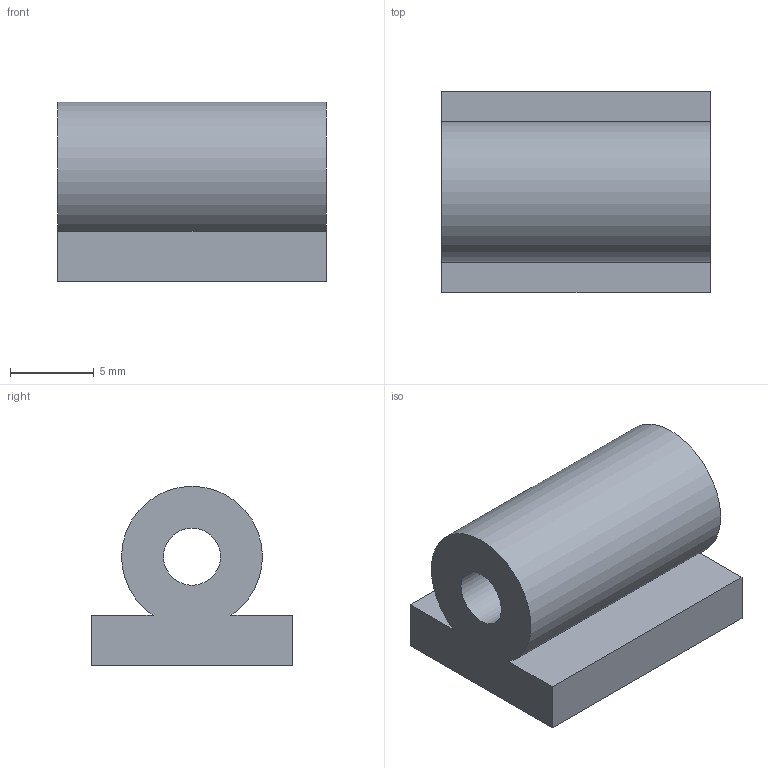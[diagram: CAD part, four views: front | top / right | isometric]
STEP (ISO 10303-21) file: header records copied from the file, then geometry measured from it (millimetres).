
FILE_DESCRIPTION(('Open CASCADE Model'),'2;1');
FILE_NAME('Open CASCADE Shape Model','2026-09-16T15:55:11',('Author'),( 'Open CASCADE'),'Open CASCADE STEP processor 7.9','Open CASCADE 7.9' ,'Unknown');
FILE_SCHEMA(('AUTOMOTIVE_DESIGN { 1 0 10303 214 1 1 1 1 }'));
Length unit declared in the file: millimetre
Products named in the file (1): Open CASCADE STEP translator 7.9 12
Bounding box: 16 x 12 x 10.7 mm (x, y, z)
Volume: 1282.1 mm3; surface area: 1080.4 mm2
Topology: 1 solids, 1 shells, 9 faces, 21 edges, 14 vertices
Faces by surface type: plane 7, cylinder 2
Full cylindrical faces by diameter (mm): 3.4 x1
Entity records: 554 total; most frequent: CARTESIAN_POINT 115, DIRECTION 79, LINE 51, VECTOR 51, ORIENTED_EDGE 42, PCURVE 42, DEFINITIONAL_REPRESENTATION 42, EDGE_CURVE 21
